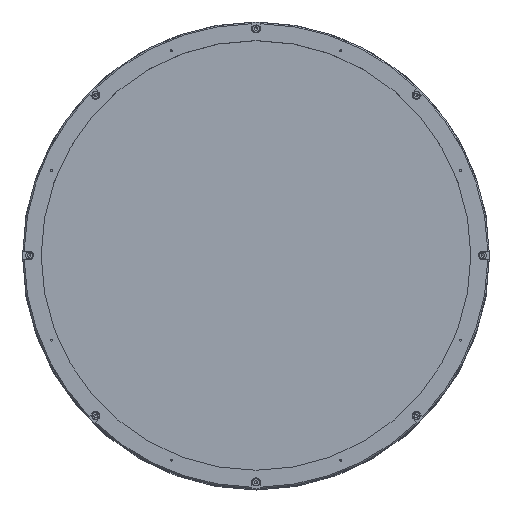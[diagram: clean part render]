
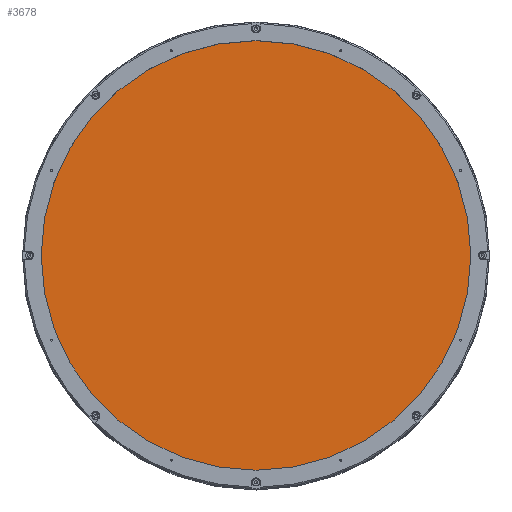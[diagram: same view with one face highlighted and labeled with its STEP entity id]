
A CAD part, top view. The second image highlights one B-rep face of the part: STEP entity #3678.
In plain terms, the highlighted planar face has unit normal (0, 0, 1).
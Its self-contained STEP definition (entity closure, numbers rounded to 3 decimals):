
#1762 = DIRECTION ( 'NONE',  ( 0., 0., -1. ) ) ;
#1797 = DIRECTION ( 'NONE',  ( -1., 0., 0. ) ) ;
#2113 = EDGE_CURVE ( 'NONE', #5880, #5880, #13679, .T. ) ;
#3472 = PLANE ( 'NONE',  #16822 ) ;
#3678 = ADVANCED_FACE ( 'NONE', ( #13028 ), #3472, .F. ) ;
#3741 = DIRECTION ( 'NONE',  ( 0., 0., -1. ) ) ;
#5880 = VERTEX_POINT ( 'NONE', #15258 ) ;
#6976 = CARTESIAN_POINT ( 'NONE',  ( 0., 0., 660. ) ) ;
#7006 = AXIS2_PLACEMENT_3D ( 'NONE', #19988, #3741, #14147 ) ;
#10398 = ORIENTED_EDGE ( 'NONE', *, *, #2113, .F. ) ;
#13028 = FACE_OUTER_BOUND ( 'NONE', #23615, .T. ) ;
#13679 = CIRCLE ( 'NONE', #7006, 161. ) ;
#14147 = DIRECTION ( 'NONE',  ( -1., 0., 0. ) ) ;
#15258 = CARTESIAN_POINT ( 'NONE',  ( -161., 0., 660. ) ) ;
#16822 = AXIS2_PLACEMENT_3D ( 'NONE', #6976, #1762, #1797 ) ;
#19988 = CARTESIAN_POINT ( 'NONE',  ( 0., 0., 660. ) ) ;
#23615 = EDGE_LOOP ( 'NONE', ( #10398 ) ) ;
